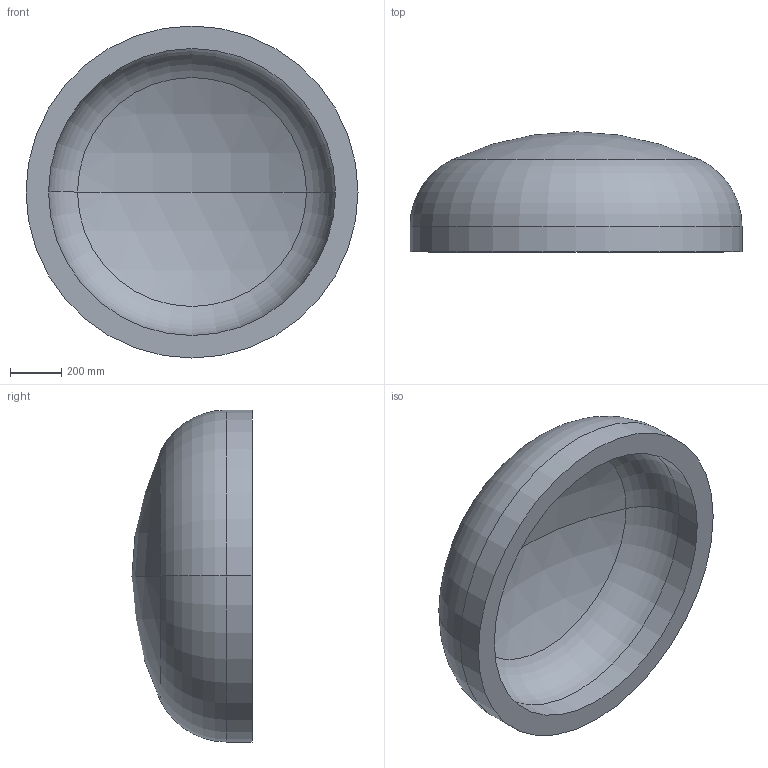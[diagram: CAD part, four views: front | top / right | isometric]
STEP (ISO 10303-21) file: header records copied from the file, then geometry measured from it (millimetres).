
FILE_DESCRIPTION (( 'STEP AP203' ), '1' );
FILE_NAME ('DIN 28013 Korbbogenform_-_Boden DIN 28013 - 1300 x 100 - I - s=88.step', '2016-07-01T10:00:12', ( '' ), ( '' ), 'SwSTEP 2.0', 'SolidWorks 2013', '' );
FILE_SCHEMA (( 'CONFIG_CONTROL_DESIGN' ));
Length unit declared in the file: millimetre
Products named in the file (1): DIN 28013 Korbbogenform_-_Boden DIN 28013 - 1300 x 100 - I - s=88
Bounding box: 1300 x 470.01 x 1300 mm (x, y, z)
Volume: 181952360.6 mm3; surface area: 4486568.7 mm2
Topology: 1 solids, 1 shells, 13 faces, 24 edges, 14 vertices
Faces by surface type: torus 4, cylinder 4, sphere 4, plane 1
Entity records: 407 total; most frequent: DIRECTION 72, CARTESIAN_POINT 52, ORIENTED_EDGE 48, AXIS2_PLACEMENT_3D 34, EDGE_CURVE 24, CIRCLE 20, VERTEX_POINT 14, EDGE_LOOP 14
